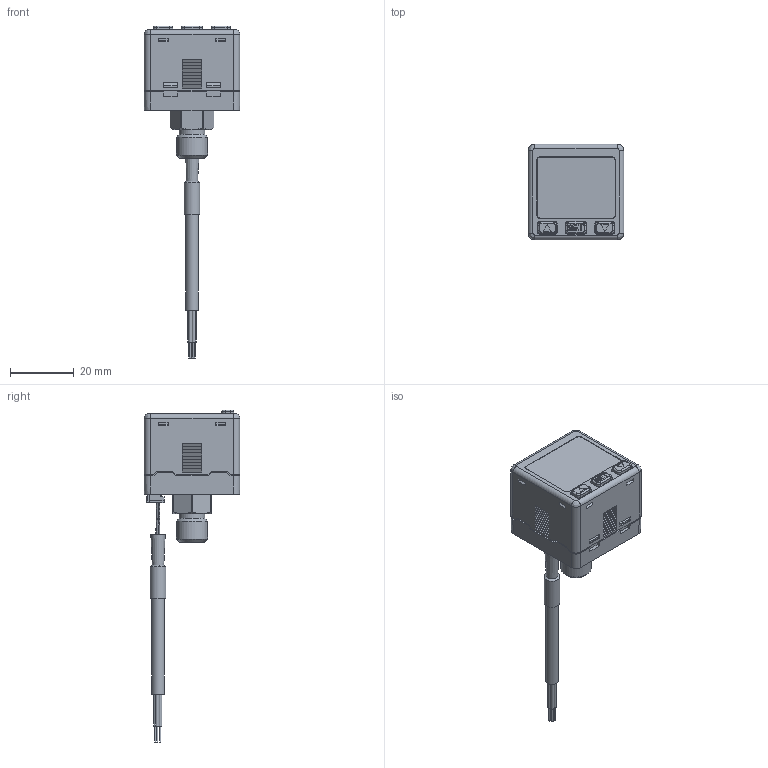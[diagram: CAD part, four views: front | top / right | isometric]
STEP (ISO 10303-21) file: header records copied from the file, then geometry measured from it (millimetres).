
FILE_DESCRIPTION(('STEP AP203'),'1');
FILE_NAME('-F3_3D.stp','2024-12-11T00:17:09',(' '),(' '),'Spatial InterOp 3D',' ',' ');
FILE_SCHEMA(('CONFIG_CONTROL_DESIGN'));
Length unit declared in the file: millimetre
Products named in the file (1): 1
Bounding box: 30.03 x 30 x 104.05 mm (x, y, z)
Volume: 23995.2 mm3; surface area: 8140.6 mm2
Topology: 1 solids, 1 shells, 802 faces, 2037 edges, 1286 vertices
Faces by surface type: plane 653, cylinder 86, bspline 26, cone 23, torus 13, sphere 1
Full cylindrical faces by diameter (mm): 0.4 x5, 1 x3, 1.1 x1, 3 x1, 3.4 x1, 4 x1, 4.2 x1, 4.6 x2, 5 x1, 5.4 x1, 7.2 x1, 8 x1, 9.728 x1
Entity records: 24561 total; most frequent: CARTESIAN_POINT 5518, ORIENTED_EDGE 3998, DIRECTION 3657, EDGE_CURVE 1999, LINE 1695, VECTOR 1695, VERTEX_POINT 1276, AXIS2_PLACEMENT_3D 981
